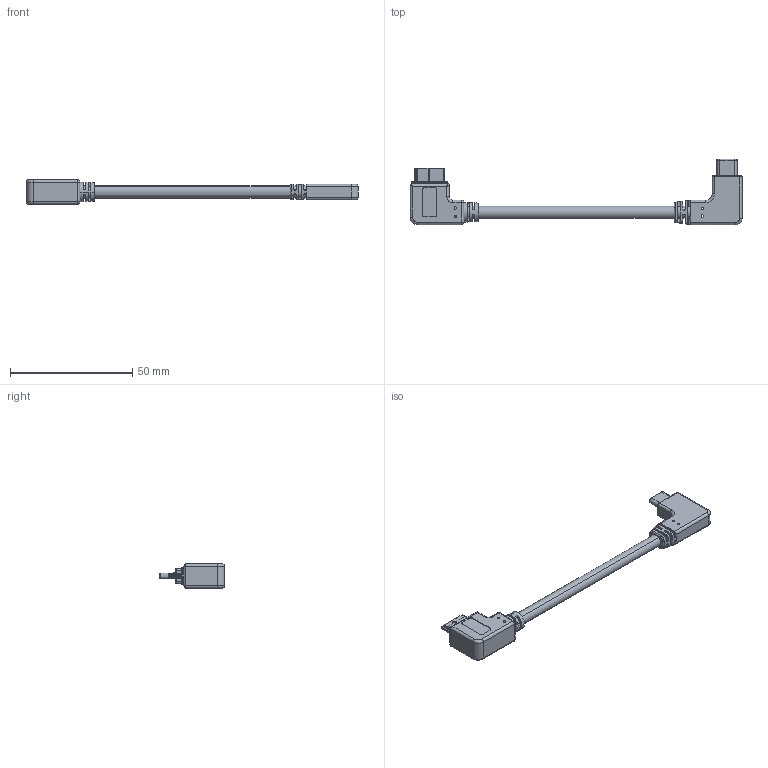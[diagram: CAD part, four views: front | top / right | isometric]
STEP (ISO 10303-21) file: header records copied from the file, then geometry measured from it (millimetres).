
FILE_DESCRIPTION (( 'STEP AP203' ), '1' );
FILE_NAME ('RR-MRCH-XXGRA_202302.STEP', '2023-02-17T05:36:26', ( '' ), ( '' ), 'SwSTEP 2.0', 'SolidWorks 2019', '' );
FILE_SCHEMA (( 'CONFIG_CONTROL_DESIGN' ));
Length unit declared in the file: millimetre
Products named in the file (1): RR-MRCH-XXGRA_202302
Bounding box: 135.75 x 26.65 x 10 mm (x, y, z)
Volume: 7619.7 mm3; surface area: 4786.4 mm2
Topology: 1 solids, 1 shells, 849 faces, 2400 edges, 1564 vertices
Faces by surface type: plane 604, cylinder 203, bspline 14, torus 14, sphere 8, cone 6
Entity records: 28692 total; most frequent: CARTESIAN_POINT 6620, ORIENTED_EDGE 4776, DIRECTION 4335, EDGE_CURVE 2388, VECTOR 1887, LINE 1887, VERTEX_POINT 1564, AXIS2_PLACEMENT_3D 1224
